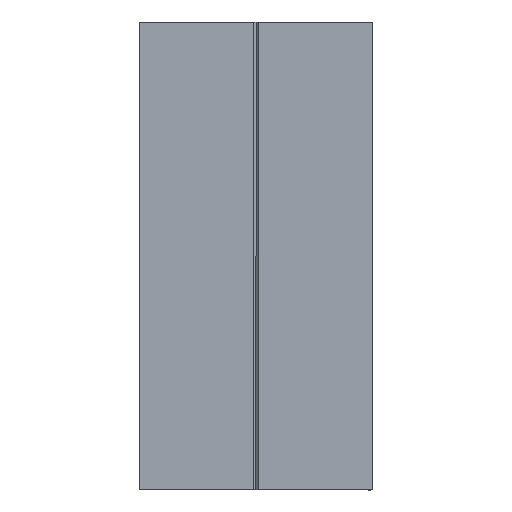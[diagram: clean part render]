
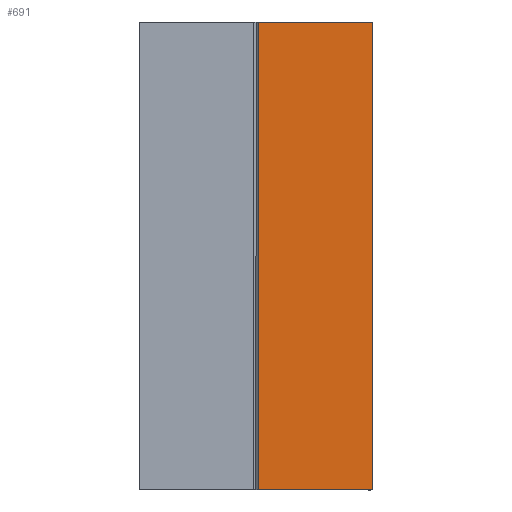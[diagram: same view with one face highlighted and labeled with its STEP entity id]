
A CAD part, left-side view. The second image highlights one B-rep face of the part: STEP entity #691.
In plain terms, the highlighted planar face has unit normal (-1, 0, 0).
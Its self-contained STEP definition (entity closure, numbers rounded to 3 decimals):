
#16 = DIRECTION ( 'NONE',  ( -1., 0., 0. ) ) ;
#39 = DIRECTION ( 'NONE',  ( 0., 0., 1. ) ) ;
#55 = VECTOR ( 'NONE', #198, 1000. ) ;
#59 = ORIENTED_EDGE ( 'NONE', *, *, #305, .T. ) ;
#63 = VERTEX_POINT ( 'NONE', #673 ) ;
#87 = CARTESIAN_POINT ( 'NONE',  ( -25., -25., 50. ) ) ;
#101 = CARTESIAN_POINT ( 'NONE',  ( -25., -25., -50. ) ) ;
#105 = DIRECTION ( 'NONE',  ( 0., -1., 0. ) ) ;
#111 = EDGE_CURVE ( 'NONE', #171, #63, #579, .T. ) ;
#123 = VECTOR ( 'NONE', #105, 1000. ) ;
#131 = DIRECTION ( 'NONE',  ( 0., 0., 1. ) ) ;
#134 = VERTEX_POINT ( 'NONE', #87 ) ;
#159 = CARTESIAN_POINT ( 'NONE',  ( -25., -25., 0. ) ) ;
#171 = VERTEX_POINT ( 'NONE', #359 ) ;
#194 = DIRECTION ( 'NONE',  ( 0., 1., 0. ) ) ;
#198 = DIRECTION ( 'NONE',  ( 0., 0., -1. ) ) ;
#218 = VERTEX_POINT ( 'NONE', #684 ) ;
#236 = EDGE_LOOP ( 'NONE', ( #655, #488, #594, #59 ) ) ;
#241 = CARTESIAN_POINT ( 'NONE',  ( -25., -25., 0. ) ) ;
#260 = LINE ( 'NONE', #101, #123 ) ;
#297 = EDGE_CURVE ( 'NONE', #218, #134, #639, .T. ) ;
#305 = EDGE_CURVE ( 'NONE', #63, #218, #260, .T. ) ;
#359 = CARTESIAN_POINT ( 'NONE',  ( -25., -0.5, 50. ) ) ;
#394 = PLANE ( 'NONE',  #601 ) ;
#407 = CARTESIAN_POINT ( 'NONE',  ( -25., -0.5, 0. ) ) ;
#488 = ORIENTED_EDGE ( 'NONE', *, *, #672, .T. ) ;
#508 = VECTOR ( 'NONE', #194, 1000. ) ;
#558 = CARTESIAN_POINT ( 'NONE',  ( -25., -25., 50. ) ) ;
#570 = FACE_OUTER_BOUND ( 'NONE', #236, .T. ) ;
#579 = LINE ( 'NONE', #407, #55 ) ;
#594 = ORIENTED_EDGE ( 'NONE', *, *, #111, .T. ) ;
#601 = AXIS2_PLACEMENT_3D ( 'NONE', #241, #16, #131 ) ;
#639 = LINE ( 'NONE', #159, #695 ) ;
#655 = ORIENTED_EDGE ( 'NONE', *, *, #297, .T. ) ;
#661 = LINE ( 'NONE', #558, #508 ) ;
#672 = EDGE_CURVE ( 'NONE', #134, #171, #661, .T. ) ;
#673 = CARTESIAN_POINT ( 'NONE',  ( -25., -0.5, -50. ) ) ;
#684 = CARTESIAN_POINT ( 'NONE',  ( -25., -25., -50. ) ) ;
#691 = ADVANCED_FACE ( 'NONE', ( #570 ), #394, .T. ) ;
#695 = VECTOR ( 'NONE', #39, 1000. ) ;
